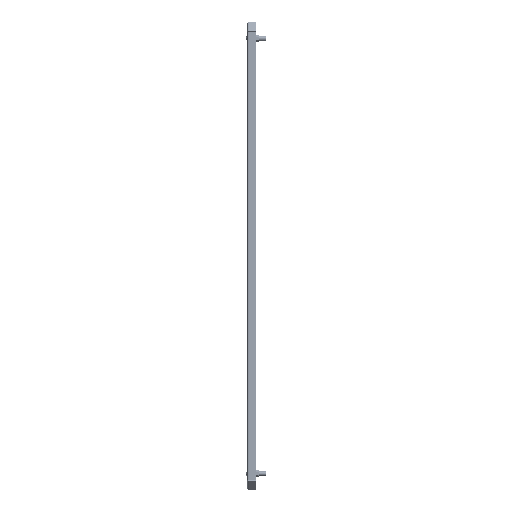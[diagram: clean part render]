
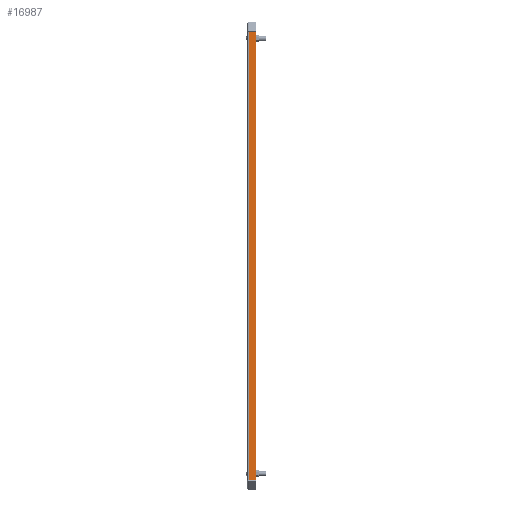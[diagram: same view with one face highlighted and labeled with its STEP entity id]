
A CAD part, left-side view. The second image highlights one B-rep face of the part: STEP entity #16987.
In plain terms, the highlighted planar face has unit normal (-1, 0, 0).
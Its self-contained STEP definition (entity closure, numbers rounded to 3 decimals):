
#4483 = VECTOR ( 'NONE', #8327, 1000. ) ;
#4516 = VECTOR ( 'NONE', #8360, 1000. ) ;
#4523 = VECTOR ( 'NONE', #8384, 1000. ) ;
#4528 = VECTOR ( 'NONE', #8396, 1000. ) ;
#5677 = ORIENTED_EDGE ( 'NONE', *, *, #7840, .F. ) ;
#5678 = ORIENTED_EDGE ( 'NONE', *, *, #7829, .F. ) ;
#5679 = ORIENTED_EDGE ( 'NONE', *, *, #7852, .T. ) ;
#5684 = ORIENTED_EDGE ( 'NONE', *, *, #7848, .F. ) ;
#7829 = EDGE_CURVE ( 'NONE', #37663, #37665, #8325, .T. ) ;
#7840 = EDGE_CURVE ( 'NONE', #37670, #37668, #8358, .T. ) ;
#7848 = EDGE_CURVE ( 'NONE', #37665, #37670, #8382, .T. ) ;
#7852 = EDGE_CURVE ( 'NONE', #37663, #37668, #8394, .T. ) ;
#8325 = LINE ( 'NONE', #8326, #4483 ) ;
#8326 = CARTESIAN_POINT ( 'NONE',  ( -300., -2.4, 480. ) ) ;
#8327 = DIRECTION ( 'NONE',  ( 0., 0., 1. ) ) ;
#8358 = LINE ( 'NONE', #8359, #4516 ) ;
#8359 = CARTESIAN_POINT ( 'NONE',  ( -300., -18., 480. ) ) ;
#8360 = DIRECTION ( 'NONE',  ( 0., 0., -1. ) ) ;
#8382 = LINE ( 'NONE', #8383, #4523 ) ;
#8383 = CARTESIAN_POINT ( 'NONE',  ( -300., -1.2, 479.395 ) ) ;
#8384 = DIRECTION ( 'NONE',  ( 0., -1., 0. ) ) ;
#8394 = LINE ( 'NONE', #8395, #4528 ) ;
#8395 = CARTESIAN_POINT ( 'NONE',  ( -300., -18., -479.395 ) ) ;
#8396 = DIRECTION ( 'NONE',  ( 0., -1., 0. ) ) ;
#16987 = ADVANCED_FACE ( 'NONE', ( #160419 ), #103453, .F. ) ;
#37663 = VERTEX_POINT ( 'NONE', #163131 ) ;
#37665 = VERTEX_POINT ( 'NONE', #163135 ) ;
#37668 = VERTEX_POINT ( 'NONE', #163141 ) ;
#37670 = VERTEX_POINT ( 'NONE', #163145 ) ;
#103453 = PLANE ( 'NONE',  #160421 ) ;
#103454 = CARTESIAN_POINT ( 'NONE',  ( -300., -18., 480. ) ) ;
#103456 = DIRECTION ( 'NONE',  ( 1., 0., 0. ) ) ;
#103458 = DIRECTION ( 'NONE',  ( 0., 1., 0. ) ) ;
#153114 = EDGE_LOOP ( 'NONE', ( #5678, #5679, #5677, #5684 ) ) ;
#160419 = FACE_OUTER_BOUND ( 'NONE', #153114, .T. ) ;
#160421 = AXIS2_PLACEMENT_3D ( 'NONE', #103454, #103456, #103458 ) ;
#163131 = CARTESIAN_POINT ( 'NONE',  ( -300., -2.4, -479.395 ) ) ;
#163135 = CARTESIAN_POINT ( 'NONE',  ( -300., -2.4, 479.395 ) ) ;
#163141 = CARTESIAN_POINT ( 'NONE',  ( -300., -18., -479.395 ) ) ;
#163145 = CARTESIAN_POINT ( 'NONE',  ( -300., -18., 479.395 ) ) ;
